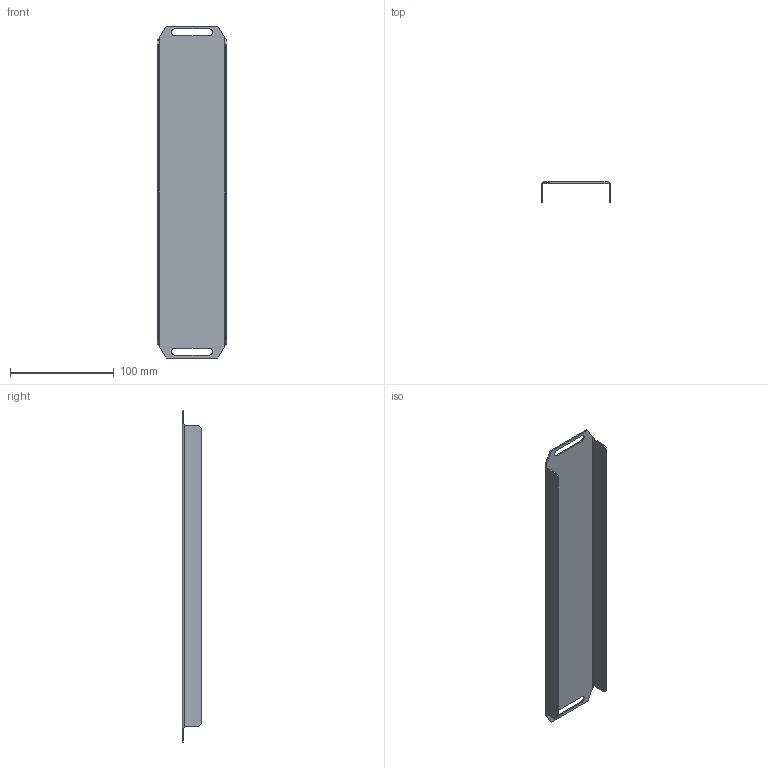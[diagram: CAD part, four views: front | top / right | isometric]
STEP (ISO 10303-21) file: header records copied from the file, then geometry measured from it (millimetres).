
FILE_DESCRIPTION (( 'STEP AP203' ), '1' );
FILE_NAME ('PKV 50 S Ïàíåëü ñòàöèîíàðíàÿ.STEP', '2021-05-17T06:29:18', ( '' ), ( '' ), 'SwSTEP 2.0', 'SolidWorks 2018', '' );
FILE_SCHEMA (( 'CONFIG_CONTROL_DESIGN' ));
Length unit declared in the file: millimetre
Products named in the file (1): PKV 50 S Ïàíåëü ñòàöèîíàðíàÿ
Bounding box: 67 x 19 x 320.5 mm (x, y, z)
Volume: 36736.4 mm3; surface area: 62409.7 mm2
Topology: 1 solids, 1 shells, 38 faces, 92 edges, 56 vertices
Faces by surface type: plane 26, cylinder 8, bspline 4
Entity records: 1281 total; most frequent: CARTESIAN_POINT 351, ORIENTED_EDGE 184, DIRECTION 154, EDGE_CURVE 92, LINE 68, VECTOR 68, VERTEX_POINT 56, AXIS2_PLACEMENT_3D 43
